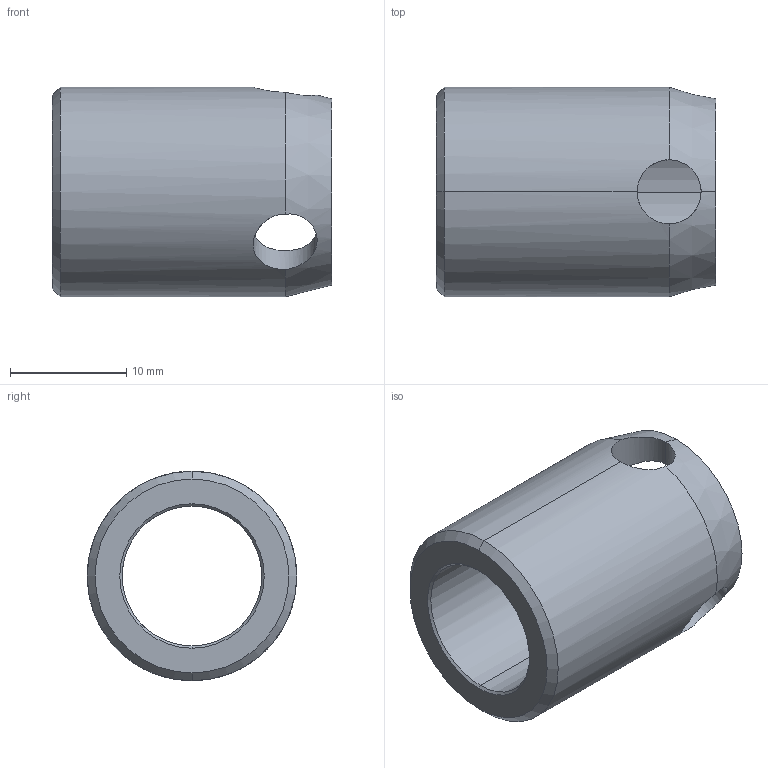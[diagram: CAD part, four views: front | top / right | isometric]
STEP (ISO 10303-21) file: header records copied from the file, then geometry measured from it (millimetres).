
FILE_DESCRIPTION (( 'STEP AP203' ), '1' );
FILE_NAME ('FSUK-SCRS-M14-24.STEP', '2021-08-05T13:05:53', ( '' ), ( '' ), 'SwSTEP 2.0', 'SolidWorks 2021', '' );
FILE_SCHEMA (( 'CONFIG_CONTROL_DESIGN' ));
Length unit declared in the file: millimetre
Products named in the file (1): FSUK-SCRS-M14-24
Bounding box: 24 x 18 x 18 mm (x, y, z)
Volume: 3062.6 mm3; surface area: 2457 mm2
Topology: 1 solids, 1 shells, 20 faces, 55 edges, 33 vertices
Faces by surface type: cylinder 10, cone 8, plane 2
Entity records: 1058 total; most frequent: CARTESIAN_POINT 481, ORIENTED_EDGE 110, DIRECTION 97, EDGE_CURVE 55, AXIS2_PLACEMENT_3D 39, VERTEX_POINT 33, EDGE_LOOP 24, ADVANCED_FACE 20
